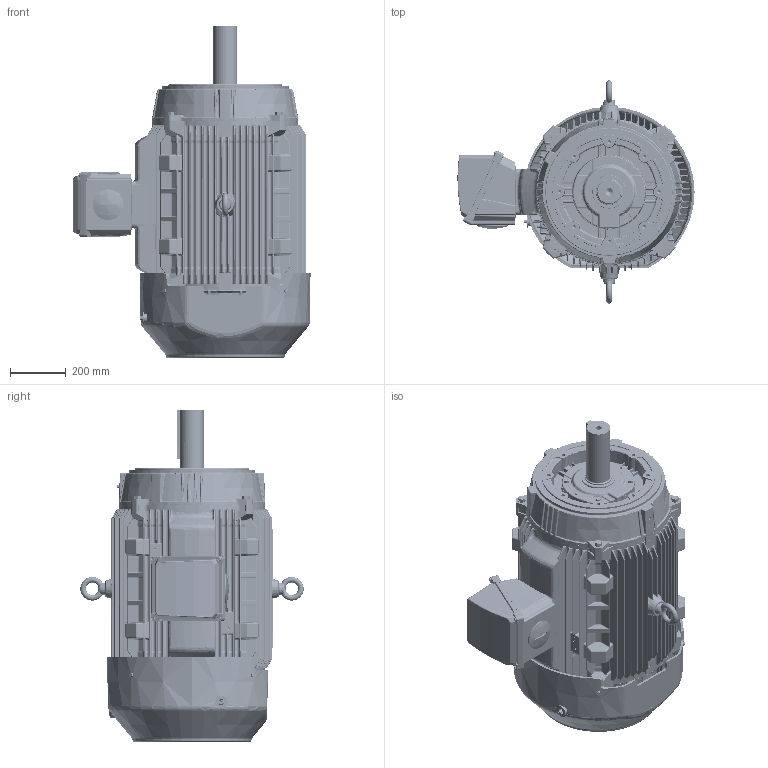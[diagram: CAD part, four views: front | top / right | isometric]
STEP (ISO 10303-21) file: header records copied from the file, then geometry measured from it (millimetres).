
FILE_DESCRIPTION (( 'STEP AP203' ), '1' );
FILE_NAME ('SS621014-200_RevD.STEP', '2021-09-08T10:40:05', ( '' ), ( '' ), 'SwSTEP 2.0', 'SolidWorks 2021', '' );
FILE_SCHEMA (( 'CONFIG_CONTROL_DESIGN' ));
Products named in the file (1): SS621014-200_RevD
Bounding box: 849.5 x 800 x 1189.4 mm (x, y, z)
Volume: 51299816.9 mm3; surface area: 8639632.6 mm2
Topology: 57 solids, 60 shells, 14085 faces, 33371 edges, 19075 vertices
Faces by surface type: bspline 4492, cylinder 3507, torus 2395, plane 1840, cone 1271, sphere 580
Entity records: 581248 total; most frequent: CARTESIAN_POINT 290560, ORIENTED_EDGE 65630, DIRECTION 56753, EDGE_CURVE 32815, AXIS2_PLACEMENT_3D 24685, VERTEX_POINT 18995, CIRCLE 15091, EDGE_LOOP 14568
